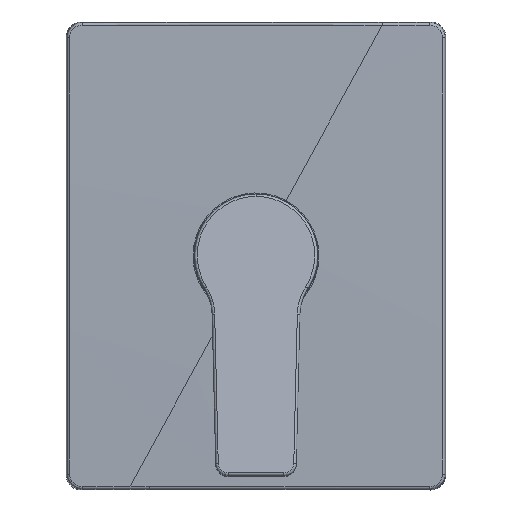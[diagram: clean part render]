
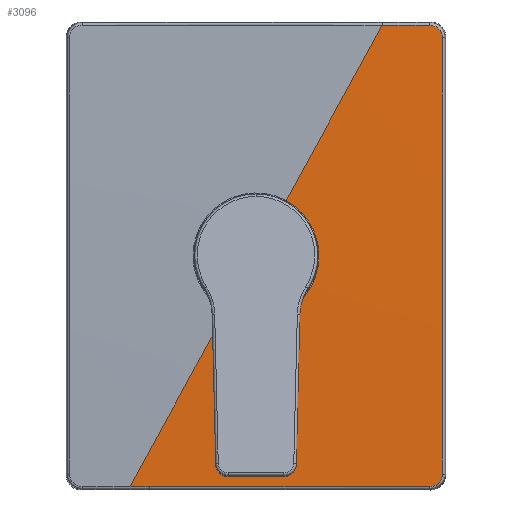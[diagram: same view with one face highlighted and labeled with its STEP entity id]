
A CAD part, top view. The second image highlights one B-rep face of the part: STEP entity #3096.
In plain terms, the highlighted spherical face has radius 6400 mm.
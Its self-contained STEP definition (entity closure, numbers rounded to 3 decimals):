
#37 = VERTEX_POINT ( 'NONE', #1560 ) ;
#185 = DIRECTION ( 'NONE',  ( -1., 0., -0.026 ) ) ;
#228 = CARTESIAN_POINT ( 'NONE',  ( 73.697, -86.628, 12.989 ) ) ;
#274 = EDGE_CURVE ( 'NONE', #2959, #37, #724, .T. ) ;
#370 = CARTESIAN_POINT ( 'NONE',  ( 72.061, 89.948, 12.962 ) ) ;
#423 = DIRECTION ( 'NONE',  ( -0.479, -0.878, 0. ) ) ;
#519 = CARTESIAN_POINT ( 'NONE',  ( 68.698, -91.2, 12.981 ) ) ;
#665 = CARTESIAN_POINT ( 'NONE',  ( 72.013, -90.058, 12.961 ) ) ;
#716 = EDGE_CURVE ( 'NONE', #2767, #4371, #3443, .T. ) ;
#724 = CIRCLE ( 'NONE', #4762, 24.9 ) ;
#758 = CARTESIAN_POINT ( 'NONE',  ( 71.686, 90.253, 12.962 ) ) ;
#786 = CARTESIAN_POINT ( 'NONE',  ( 70.938, 90.729, 12.964 ) ) ;
#814 = CARTESIAN_POINT ( 'NONE',  ( 73.553, 87.482, 12.979 ) ) ;
#839 = CARTESIAN_POINT ( 'NONE',  ( -11.938, -21.852, 13.952 ) ) ;
#866 = CIRCLE ( 'NONE', #2102, 6400. ) ;
#900 = CIRCLE ( 'NONE', #4188, 6394.77 ) ;
#932 = EDGE_CURVE ( 'NONE', #4371, #3232, #5777, .T. ) ;
#993 = CARTESIAN_POINT ( 'NONE',  ( 73.697, -86.201, 12.995 ) ) ;
#1085 = CARTESIAN_POINT ( 'NONE',  ( 73.348, -88.147, 12.973 ) ) ;
#1234 = DIRECTION ( 'NONE',  ( 1., 0., 0. ) ) ;
#1253 = CARTESIAN_POINT ( 'NONE',  ( 73.697, 86.681, 12.989 ) ) ;
#1257 = EDGE_CURVE ( 'NONE', #1992, #2368, #900, .T. ) ;
#1268 = AXIS2_PLACEMENT_3D ( 'NONE', #1423, #185, #3214 ) ;
#1339 = CIRCLE ( 'NONE', #5758, 6394.77 ) ;
#1351 = SPHERICAL_SURFACE ( 'NONE', #2561, 6400. ) ;
#1423 = CARTESIAN_POINT ( 'NONE',  ( 241.095, 0., -6379.687 ) ) ;
#1495 = CARTESIAN_POINT ( 'NONE',  ( 73.652, -87.005, 12.985 ) ) ;
#1560 = CARTESIAN_POINT ( 'NONE',  ( 11.938, 21.852, 13.952 ) ) ;
#1694 = CARTESIAN_POINT ( 'NONE',  ( 0., 0., -6386. ) ) ;
#1737 = CARTESIAN_POINT ( 'NONE',  ( 68.698, 91.2, 12.981 ) ) ;
#1823 = CIRCLE ( 'NONE', #2379, 6400. ) ;
#1958 = DIRECTION ( 'NONE',  ( 0.878, -0.479, 0. ) ) ;
#1989 = CARTESIAN_POINT ( 'NONE',  ( 0., 0., -6386. ) ) ;
#1992 = VERTEX_POINT ( 'NONE', #5175 ) ;
#2102 = AXIS2_PLACEMENT_3D ( 'NONE', #3599, #3042, #423 ) ;
#2115 = DIRECTION ( 'NONE',  ( 1., 0., 0. ) ) ;
#2117 = DIRECTION ( 'NONE',  ( 1., 0., 0. ) ) ;
#2130 = CARTESIAN_POINT ( 'NONE',  ( 0., -258.586, -6379.229 ) ) ;
#2173 = CARTESIAN_POINT ( 'NONE',  ( 70.064, 91.038, 12.969 ) ) ;
#2293 = EDGE_CURVE ( 'NONE', #37, #3332, #866, .T. ) ;
#2368 = VERTEX_POINT ( 'NONE', #4041 ) ;
#2379 = AXIS2_PLACEMENT_3D ( 'NONE', #1989, #1958, #3748 ) ;
#2402 = CARTESIAN_POINT ( 'NONE',  ( 68.698, -91.2, 12.981 ) ) ;
#2429 = CARTESIAN_POINT ( 'NONE',  ( 72.997, -88.809, 12.967 ) ) ;
#2547 = DIRECTION ( 'NONE',  ( 0., 1., -0.026 ) ) ;
#2561 = AXIS2_PLACEMENT_3D ( 'NONE', #1694, #3537, #4827 ) ;
#2610 = CARTESIAN_POINT ( 'NONE',  ( 73.089, 88.612, 12.969 ) ) ;
#2659 = AXIS2_PLACEMENT_3D ( 'NONE', #4290, #4722, #2115 ) ;
#2669 = CARTESIAN_POINT ( 'NONE',  ( 72.968, 88.819, 12.968 ) ) ;
#2767 = VERTEX_POINT ( 'NONE', #519 ) ;
#2798 = ORIENTED_EDGE ( 'NONE', *, *, #2293, .F. ) ;
#2944 = CIRCLE ( 'NONE', #2659, 6394.77 ) ;
#2959 = VERTEX_POINT ( 'NONE', #839 ) ;
#2995 = CARTESIAN_POINT ( 'NONE',  ( 73.64, 87.098, 12.984 ) ) ;
#3042 = DIRECTION ( 'NONE',  ( -0.878, 0.479, 0. ) ) ;
#3096 = ADVANCED_FACE ( 'NONE', ( #5263 ), #1351, .T. ) ;
#3214 = DIRECTION ( 'NONE',  ( 0.026, 0., -1. ) ) ;
#3221 = CARTESIAN_POINT ( 'NONE',  ( 73.581, -87.353, 12.981 ) ) ;
#3232 = VERTEX_POINT ( 'NONE', #5495 ) ;
#3240 = ORIENTED_EDGE ( 'NONE', *, *, #274, .F. ) ;
#3326 = CARTESIAN_POINT ( 'NONE',  ( 73.697, -86.201, 12.995 ) ) ;
#3332 = VERTEX_POINT ( 'NONE', #4360 ) ;
#3343 = ORIENTED_EDGE ( 'NONE', *, *, #4026, .T. ) ;
#3418 = ORIENTED_EDGE ( 'NONE', *, *, #716, .T. ) ;
#3443 = B_SPLINE_CURVE_WITH_KNOTS ( 'NONE', 5,
 ( #2402, #3728, #4199, #5512, #665, #5109, #2429, #1085, #3221, #1495, #228, #993 ),
 .UNSPECIFIED., .F., .F.,
 ( 6, 3, 3, 6 ),
 ( 396.745, 599.758, 714.109, 792.429 ),
 .UNSPECIFIED. ) ;
#3472 = VERTEX_POINT ( 'NONE', #5610 ) ;
#3517 = EDGE_CURVE ( 'NONE', #3232, #3472, #4511, .T. ) ;
#3537 = DIRECTION ( 'NONE',  ( 0.878, -0.479, 0. ) ) ;
#3552 = CARTESIAN_POINT ( 'NONE',  ( 73.697, 86.201, 12.995 ) ) ;
#3599 = CARTESIAN_POINT ( 'NONE',  ( 0., 0., -6386. ) ) ;
#3603 = DIRECTION ( 'NONE',  ( 0., 0., 1. ) ) ;
#3625 = ORIENTED_EDGE ( 'NONE', *, *, #932, .T. ) ;
#3728 = CARTESIAN_POINT ( 'NONE',  ( 69.605, -91.2, 12.972 ) ) ;
#3748 = DIRECTION ( 'NONE',  ( 0.479, 0.878, 0. ) ) ;
#3868 = EDGE_CURVE ( 'NONE', #2368, #2767, #1339, .T. ) ;
#3892 = ORIENTED_EDGE ( 'NONE', *, *, #1257, .T. ) ;
#3963 = CARTESIAN_POINT ( 'NONE',  ( 69.645, 91.139, 12.972 ) ) ;
#4016 = CARTESIAN_POINT ( 'NONE',  ( 0., 0., 13.952 ) ) ;
#4026 = EDGE_CURVE ( 'NONE', #2959, #1992, #1823, .T. ) ;
#4041 = CARTESIAN_POINT ( 'NONE',  ( -42.196, -91.194, 13.211 ) ) ;
#4188 = AXIS2_PLACEMENT_3D ( 'NONE', #2130, #5260, #1234 ) ;
#4199 = CARTESIAN_POINT ( 'NONE',  ( 70.372, -90.998, 12.966 ) ) ;
#4228 = ORIENTED_EDGE ( 'NONE', *, *, #4304, .T. ) ;
#4290 = CARTESIAN_POINT ( 'NONE',  ( 0., 258.586, -6379.229 ) ) ;
#4304 = EDGE_CURVE ( 'NONE', #3472, #3332, #2944, .T. ) ;
#4360 = CARTESIAN_POINT ( 'NONE',  ( 49.82, 91.196, 13.156 ) ) ;
#4371 = VERTEX_POINT ( 'NONE', #3326 ) ;
#4462 = CARTESIAN_POINT ( 'NONE',  ( 69.193, 91.2, 12.976 ) ) ;
#4511 = B_SPLINE_CURVE_WITH_KNOTS ( 'NONE', 5,
 ( #3552, #1253, #2995, #814, #5697, #2610, #2669, #5231, #370, #758, #786, #2173, #3963, #4462, #1737 ),
 .UNSPECIFIED., .F., .F.,
 ( 6, 3, 3, 3, 6 ),
 ( 374.866, 462.962, 525.571, 659.832, 770.559 ),
 .UNSPECIFIED. ) ;
#4722 = DIRECTION ( 'NONE',  ( 0., -1., -0.026 ) ) ;
#4762 = AXIS2_PLACEMENT_3D ( 'NONE', #4016, #3603, #5391 ) ;
#4783 = CARTESIAN_POINT ( 'NONE',  ( 0., -258.586, -6379.229 ) ) ;
#4827 = DIRECTION ( 'NONE',  ( 0.479, 0.878, 0. ) ) ;
#4862 = ORIENTED_EDGE ( 'NONE', *, *, #3868, .T. ) ;
#5109 = CARTESIAN_POINT ( 'NONE',  ( 72.759, -89.164, 12.965 ) ) ;
#5175 = CARTESIAN_POINT ( 'NONE',  ( -49.82, -91.196, 13.156 ) ) ;
#5231 = CARTESIAN_POINT ( 'NONE',  ( 72.559, 89.436, 12.964 ) ) ;
#5250 = ORIENTED_EDGE ( 'NONE', *, *, #3517, .T. ) ;
#5260 = DIRECTION ( 'NONE',  ( 0., 1., -0.026 ) ) ;
#5263 = FACE_OUTER_BOUND ( 'NONE', #5802, .T. ) ;
#5391 = DIRECTION ( 'NONE',  ( 0., 1., 0. ) ) ;
#5495 = CARTESIAN_POINT ( 'NONE',  ( 73.697, 86.201, 12.995 ) ) ;
#5512 = CARTESIAN_POINT ( 'NONE',  ( 71.061, -90.698, 12.963 ) ) ;
#5610 = CARTESIAN_POINT ( 'NONE',  ( 68.698, 91.2, 12.981 ) ) ;
#5697 = CARTESIAN_POINT ( 'NONE',  ( 73.354, 88.085, 12.973 ) ) ;
#5758 = AXIS2_PLACEMENT_3D ( 'NONE', #4783, #2547, #2117 ) ;
#5777 = CIRCLE ( 'NONE', #1268, 6395.454 ) ;
#5802 = EDGE_LOOP ( 'NONE', ( #3240, #3343, #3892, #4862, #3418, #3625, #5250, #4228, #2798 ) ) ;
